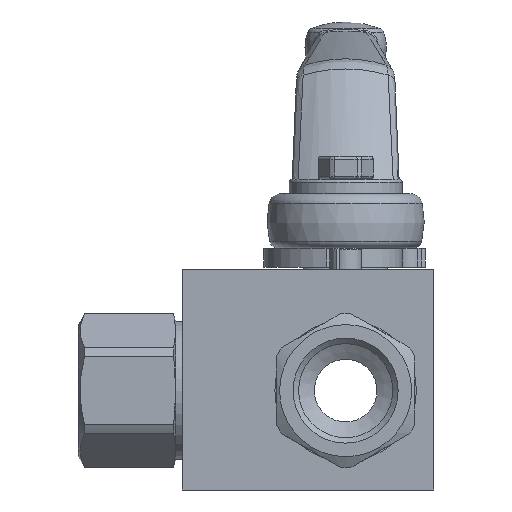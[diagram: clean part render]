
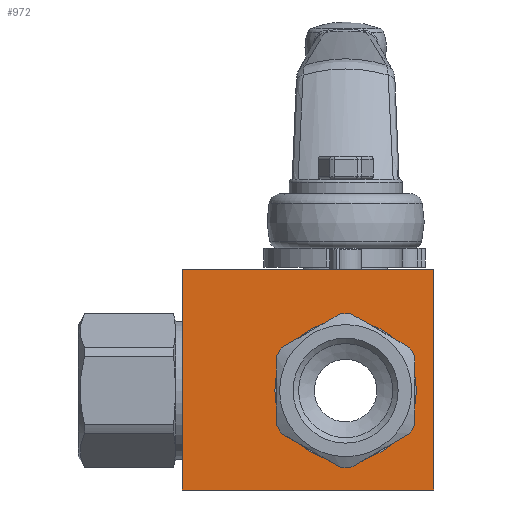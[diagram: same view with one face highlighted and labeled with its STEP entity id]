
A CAD part, front view. The second image highlights one B-rep face of the part: STEP entity #972.
In plain terms, the highlighted planar face has unit normal (0, -1, 0).
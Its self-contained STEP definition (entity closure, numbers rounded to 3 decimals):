
#972 = ADVANCED_FACE( '', ( #1941, #1942 ), #1943, .T. );
#1941 = FACE_OUTER_BOUND( '', #3734, .T. );
#1942 = FACE_BOUND( '', #3735, .T. );
#1943 = PLANE( '', #3736 );
#3734 = EDGE_LOOP( '', ( #6239, #6240, #6241, #6242 ) );
#3735 = EDGE_LOOP( '', ( #6243 ) );
#3736 = AXIS2_PLACEMENT_3D( '', #6244, #6245, #6246 );
#6239 = ORIENTED_EDGE( '', *, *, #7248, .T. );
#6240 = ORIENTED_EDGE( '', *, *, #7531, .T. );
#6241 = ORIENTED_EDGE( '', *, *, #7323, .T. );
#6242 = ORIENTED_EDGE( '', *, *, #7059, .T. );
#6243 = ORIENTED_EDGE( '', *, *, #7736, .T. );
#6244 = CARTESIAN_POINT( '', ( -26., -17.5, -15.8 ) );
#6245 = DIRECTION( '', ( 0., -1., 0. ) );
#6246 = DIRECTION( '', ( 0., 0., -1. ) );
#7059 = EDGE_CURVE( '', #8460, #8458, #8461, .T. );
#7248 = EDGE_CURVE( '', #8458, #8780, #8782, .T. );
#7323 = EDGE_CURVE( '', #8906, #8460, #8907, .T. );
#7531 = EDGE_CURVE( '', #8780, #8906, #9233, .T. );
#7736 = EDGE_CURVE( '', #9520, #9520, #9521, .T. );
#8458 = VERTEX_POINT( '', #10159 );
#8460 = VERTEX_POINT( '', #10162 );
#8461 = LINE( '', #10163, #10164 );
#8780 = VERTEX_POINT( '', #10812 );
#8782 = LINE( '', #10815, #10816 );
#8906 = VERTEX_POINT( '', #11138 );
#8907 = LINE( '', #11139, #11140 );
#9233 = LINE( '', #11853, #11854 );
#9520 = VERTEX_POINT( '', #12398 );
#9521 = CIRCLE( '', #12399, 11.25 );
#10159 = CARTESIAN_POINT( '', ( -26., -17.5, 19.2 ) );
#10162 = CARTESIAN_POINT( '', ( 14., -17.5, 19.2 ) );
#10163 = CARTESIAN_POINT( '', ( 14., -17.5, 19.2 ) );
#10164 = VECTOR( '', #13289, 1000. );
#10812 = CARTESIAN_POINT( '', ( -26., -17.5, -15.8 ) );
#10815 = CARTESIAN_POINT( '', ( -26., -17.5, 19.2 ) );
#10816 = VECTOR( '', #13541, 1000. );
#11138 = CARTESIAN_POINT( '', ( 14., -17.5, -15.8 ) );
#11139 = CARTESIAN_POINT( '', ( 14., -17.5, -15.8 ) );
#11140 = VECTOR( '', #13636, 1000. );
#11853 = CARTESIAN_POINT( '', ( -26., -17.5, -15.8 ) );
#11854 = VECTOR( '', #13888, 1000. );
#12398 = CARTESIAN_POINT( '', ( 11.25, -17.5, 0. ) );
#12399 = AXIS2_PLACEMENT_3D( '', #14150, #14151, #14152 );
#13289 = DIRECTION( '', ( -1., 0., 0. ) );
#13541 = DIRECTION( '', ( 0., 0., -1. ) );
#13636 = DIRECTION( '', ( 0., 0., 1. ) );
#13888 = DIRECTION( '', ( 1., 0., 0. ) );
#14150 = CARTESIAN_POINT( '', ( 0., -17.5, 0. ) );
#14151 = DIRECTION( '', ( 0., 1., 0. ) );
#14152 = DIRECTION( '', ( 1., 0., 0. ) );
